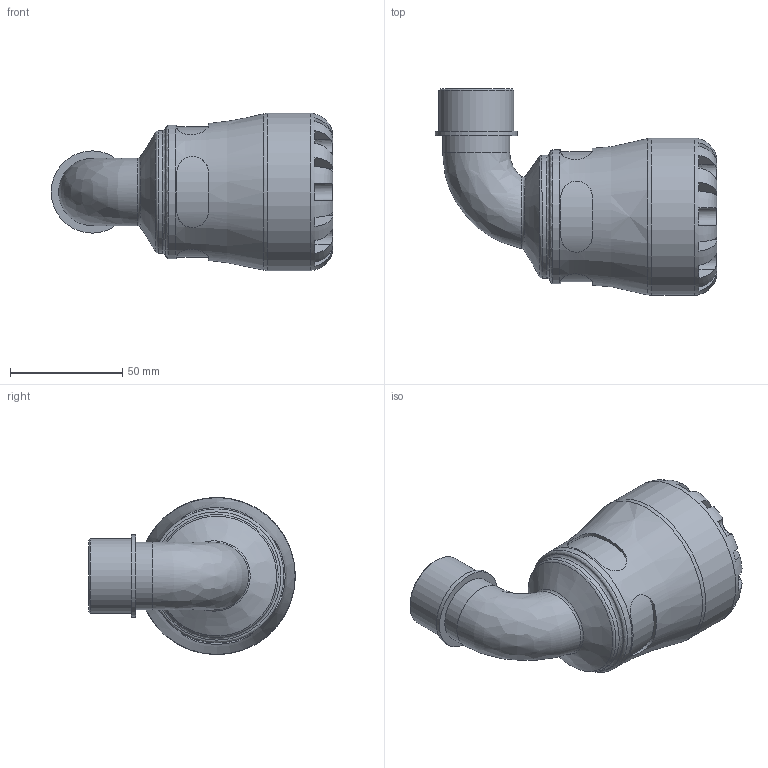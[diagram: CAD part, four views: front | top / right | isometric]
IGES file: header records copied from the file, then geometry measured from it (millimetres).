
Global section: file name: 108500040010_198500040010.ipt; native system: Autodesk Inventor 2015; preprocessor: unknown; author: KIM; date: 20190127.091524; units: millimetre
Bounding box: 125.29 x 92 x 70 mm (x, y, z)
Volume: 188594.6 mm3; surface area: 45010 mm2
Topology: 1 solids, 1 shells, 110 faces, 278 edges, 176 vertices
Faces by surface type: plane 61, revolution 26, cylinder 18, bspline 4, cone 1
Full cylindrical faces by diameter (mm): 29.924 x1, 33.249 x1, 36.574 x1, 54.6 x1, 59.5 x1, 70 x1
